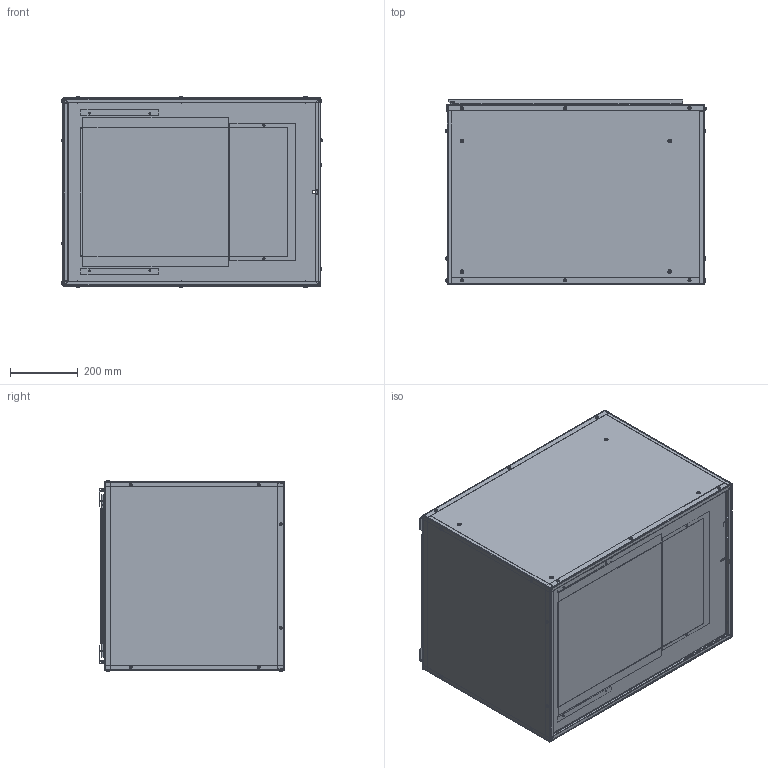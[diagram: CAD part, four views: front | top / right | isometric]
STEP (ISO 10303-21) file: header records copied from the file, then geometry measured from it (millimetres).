
FILE_DESCRIPTION (( 'STEP AP214' ), '1' );
FILE_NAME ('GTB1-A.STEP', '2016-07-14T12:55:01', ( 'BMC' ), ( 'Bard Manufacturing Co., Inc.' ), 'SwSTEP 2.0', 'SolidWorks 2016', '' );
FILE_SCHEMA (( 'AUTOMOTIVE_DESIGN' ));
Length unit declared in the file: inch
Products named in the file (22): 1012-086; 106-285; 102-477; 102-478; 140X349; 140Y349; 112-410; Geo Trio Blower plate assembly; 140-351; 1012-171; 108-244; 100-594; 114-184; 152-480; 501-595; Geo Trio Blower base assembly; 100-595; 136-600; 126-389; GTB1-A; 136-601; Geo Trio Blower top assembly
Assembly tree (68 placements, depth 4):
  GTB1-A
    501-595
      100-595
    152-480
    114-184
    100-594
    108-244
    1012-171  x24
    Geo Trio Blower top assembly
      Geo Trio Blower plate assembly
        140-351
      112-410
      140Y349
      140X349
      102-478
      102-477  x2
      106-285
      1012-086  x22
    Geo Trio Blower base assembly
      136-601
      126-389
      136-600
      102-477  x2
Bounding box: 768.12 x 547.38 x 563.56 mm (x, y, z)
Surface area: 5560428.4 mm2 (no closed solid volume)
Topology: 0 solids, 64 shells, 2270 faces, 5780 edges, 3702 vertices
Faces by surface type: plane 1191, cylinder 801, bspline 186, cone 92
Entity records: 47725 total; most frequent: CARTESIAN_POINT 10495, DIRECTION 4984, ORIENTED_EDGE 4948, EDGE_CURVE 2474, AXIS2_PLACEMENT_3D 1759, VERTEX_POINT 1574, VECTOR 1466, LINE 1466
